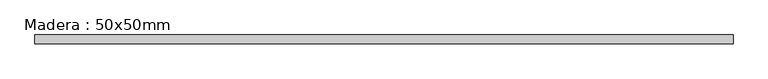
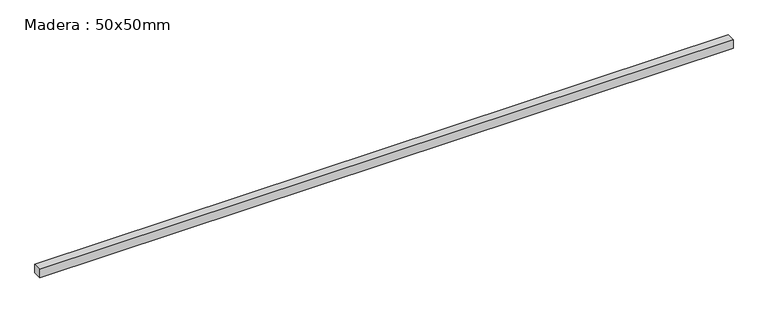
"""IFC4 building model written with IfcOpenShell, lengths in millimetres: beam geometry, Madera : 50x50mm."""

from ifc_helpers import new_model, si_unit, frame, origin, place, context, project, spatial, polyline, outline, extrude, source, transform, mapped, element, save


def madera_50x50mm_8a6b8b44(model_context):
    return source(origin(), model_context, "Body", "SweptSolid", [
        extrude(outline(polyline([(1986.0958052, 25.0), (1986.0958052, -25.0), (-1947.0, -25.0), (-1947.0, 25.0), (1986.0958052, 25.0)])), frame((0.0, 0.0, -25.0), z_axis=(0.0, 0.0, 1.0), x_axis=(1.0, 0.0, 0.0)), (0.0, 0.0, 1.0), 50.0),
    ])


if __name__ == "__main__":
    model = new_model("IFC4")
    model_context = context("Model", 3, world=origin())
    ifc_project = project(units=[si_unit("LENGTHUNIT", "METRE", prefix="MILLI")], contexts=[model_context])
    site = spatial("IfcSite", under=ifc_project)
    building = spatial("IfcBuilding", under=site)
    placement = place(None, origin())
    madera_50x50mm_shape = madera_50x50mm_8a6b8b44(model_context)
    element("IfcBeam", 1, ObjectType="Madera : 50x50mm", at=placement, inside=building, context=model_context, shape_type="MappedRepresentation", body=[
        mapped(madera_50x50mm_shape, transform((0.0, 0.0, 0.0), x_axis=(1.0, 0.0, 0.0), y_axis=(0.0, 1.0, 0.0), z_axis=(0.0, 0.0, 1.0))),
    ])
    save(model, "model.ifc")
